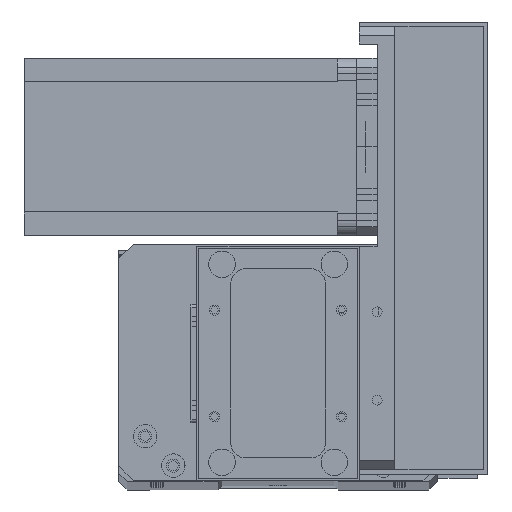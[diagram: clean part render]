
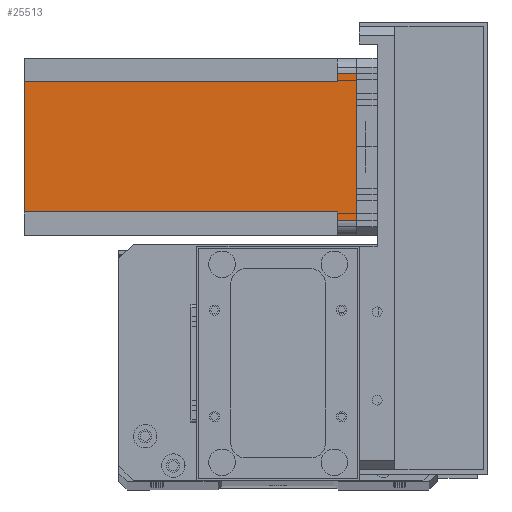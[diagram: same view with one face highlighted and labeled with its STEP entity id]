
A CAD part, top view. The second image highlights one B-rep face of the part: STEP entity #25513.
In plain terms, the highlighted planar face has unit normal (0, 0, 1) as drawn and (0, 1, 0) by its records, which use the part's own axes.
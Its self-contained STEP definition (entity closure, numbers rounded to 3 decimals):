
#406 = LINE ( 'NONE', #13103, #23933 ) ;
#1143 = LINE ( 'NONE', #1806, #6826 ) ;
#1555 = VERTEX_POINT ( 'NONE', #3083 ) ;
#1806 = CARTESIAN_POINT ( 'NONE',  ( 52., 60., -6.5 ) ) ;
#2604 = ORIENTED_EDGE ( 'NONE', *, *, #9166, .T. ) ;
#3083 = CARTESIAN_POINT ( 'NONE',  ( 8., 60., -112.5 ) ) ;
#3895 = LINE ( 'NONE', #22077, #10367 ) ;
#4436 = DIRECTION ( 'NONE',  ( 0., 0., 1. ) ) ;
#5051 = EDGE_CURVE ( 'NONE', #14171, #1555, #31037, .T. ) ;
#5458 = VERTEX_POINT ( 'NONE', #19203 ) ;
#6657 = DIRECTION ( 'NONE',  ( -1., 0., 0. ) ) ;
#6826 = VECTOR ( 'NONE', #18768, 1000. ) ;
#8089 = EDGE_CURVE ( 'NONE', #5458, #1555, #16401, .T. ) ;
#8497 = ORIENTED_EDGE ( 'NONE', *, *, #25571, .F. ) ;
#9166 = EDGE_CURVE ( 'NONE', #14213, #30320, #406, .T. ) ;
#9223 = AXIS2_PLACEMENT_3D ( 'NONE', #31090, #18989, #4436 ) ;
#10148 = VECTOR ( 'NONE', #22481, 1000. ) ;
#10367 = VECTOR ( 'NONE', #14858, 1000. ) ;
#10620 = VERTEX_POINT ( 'NONE', #22670 ) ;
#10734 = CARTESIAN_POINT ( 'NONE',  ( 52., 60., -112.5 ) ) ;
#10973 = EDGE_LOOP ( 'NONE', ( #8497, #2604, #30200, #23548, #15675, #16864, #25412, #25870 ) ) ;
#11077 = EDGE_CURVE ( 'NONE', #10620, #20848, #18543, .T. ) ;
#12100 = VECTOR ( 'NONE', #19587, 1000. ) ;
#12814 = CARTESIAN_POINT ( 'NONE',  ( 8., 60., -112.5 ) ) ;
#13103 = CARTESIAN_POINT ( 'NONE',  ( 55., 60., -112.5 ) ) ;
#14171 = VERTEX_POINT ( 'NONE', #16877 ) ;
#14213 = VERTEX_POINT ( 'NONE', #16971 ) ;
#14277 = EDGE_CURVE ( 'NONE', #14171, #10620, #3895, .T. ) ;
#14858 = DIRECTION ( 'NONE',  ( -1., 0., 0. ) ) ;
#15590 = LINE ( 'NONE', #10734, #21290 ) ;
#15675 = ORIENTED_EDGE ( 'NONE', *, *, #8089, .T. ) ;
#16401 = LINE ( 'NONE', #16419, #22108 ) ;
#16419 = CARTESIAN_POINT ( 'NONE',  ( 0., 60., -112.5 ) ) ;
#16546 = PLANE ( 'NONE',  #9223 ) ;
#16738 = CARTESIAN_POINT ( 'NONE',  ( 0., 60., 0. ) ) ;
#16864 = ORIENTED_EDGE ( 'NONE', *, *, #5051, .F. ) ;
#16877 = CARTESIAN_POINT ( 'NONE',  ( 8., 60., -6.5 ) ) ;
#16971 = CARTESIAN_POINT ( 'NONE',  ( 55., 60., 0. ) ) ;
#18543 = LINE ( 'NONE', #24359, #12100 ) ;
#18768 = DIRECTION ( 'NONE',  ( 1., 0., 0. ) ) ;
#18989 = DIRECTION ( 'NONE',  ( 0., 1., 0. ) ) ;
#19203 = CARTESIAN_POINT ( 'NONE',  ( 52., 60., -112.5 ) ) ;
#19587 = DIRECTION ( 'NONE',  ( 0., 0., 1. ) ) ;
#20848 = VERTEX_POINT ( 'NONE', #21963 ) ;
#21290 = VECTOR ( 'NONE', #25280, 1000. ) ;
#21963 = CARTESIAN_POINT ( 'NONE',  ( 5., 60., 0. ) ) ;
#22077 = CARTESIAN_POINT ( 'NONE',  ( 8., 60., -6.5 ) ) ;
#22108 = VECTOR ( 'NONE', #6657, 1000. ) ;
#22481 = DIRECTION ( 'NONE',  ( 0., 0., -1. ) ) ;
#22670 = CARTESIAN_POINT ( 'NONE',  ( 5., 60., -6.5 ) ) ;
#23548 = ORIENTED_EDGE ( 'NONE', *, *, #27004, .F. ) ;
#23668 = FACE_OUTER_BOUND ( 'NONE', #10973, .T. ) ;
#23865 = EDGE_CURVE ( 'NONE', #30049, #30320, #1143, .T. ) ;
#23933 = VECTOR ( 'NONE', #27651, 1000. ) ;
#24359 = CARTESIAN_POINT ( 'NONE',  ( 5., 60., -112.5 ) ) ;
#24754 = CARTESIAN_POINT ( 'NONE',  ( 55., 60., -6.5 ) ) ;
#25280 = DIRECTION ( 'NONE',  ( 0., 0., 1. ) ) ;
#25412 = ORIENTED_EDGE ( 'NONE', *, *, #14277, .T. ) ;
#25513 = ADVANCED_FACE ( 'NONE', ( #23668 ), #16546, .T. ) ;
#25571 = EDGE_CURVE ( 'NONE', #14213, #20848, #30132, .T. ) ;
#25870 = ORIENTED_EDGE ( 'NONE', *, *, #11077, .T. ) ;
#27004 = EDGE_CURVE ( 'NONE', #5458, #30049, #15590, .T. ) ;
#27651 = DIRECTION ( 'NONE',  ( 0., 0., -1. ) ) ;
#29375 = VECTOR ( 'NONE', #31313, 1000. ) ;
#29869 = CARTESIAN_POINT ( 'NONE',  ( 52., 60., -6.5 ) ) ;
#30049 = VERTEX_POINT ( 'NONE', #29869 ) ;
#30132 = LINE ( 'NONE', #16738, #29375 ) ;
#30200 = ORIENTED_EDGE ( 'NONE', *, *, #23865, .F. ) ;
#30320 = VERTEX_POINT ( 'NONE', #24754 ) ;
#31037 = LINE ( 'NONE', #12814, #10148 ) ;
#31090 = CARTESIAN_POINT ( 'NONE',  ( 0., 60., -112.5 ) ) ;
#31313 = DIRECTION ( 'NONE',  ( -1., 0., 0. ) ) ;
